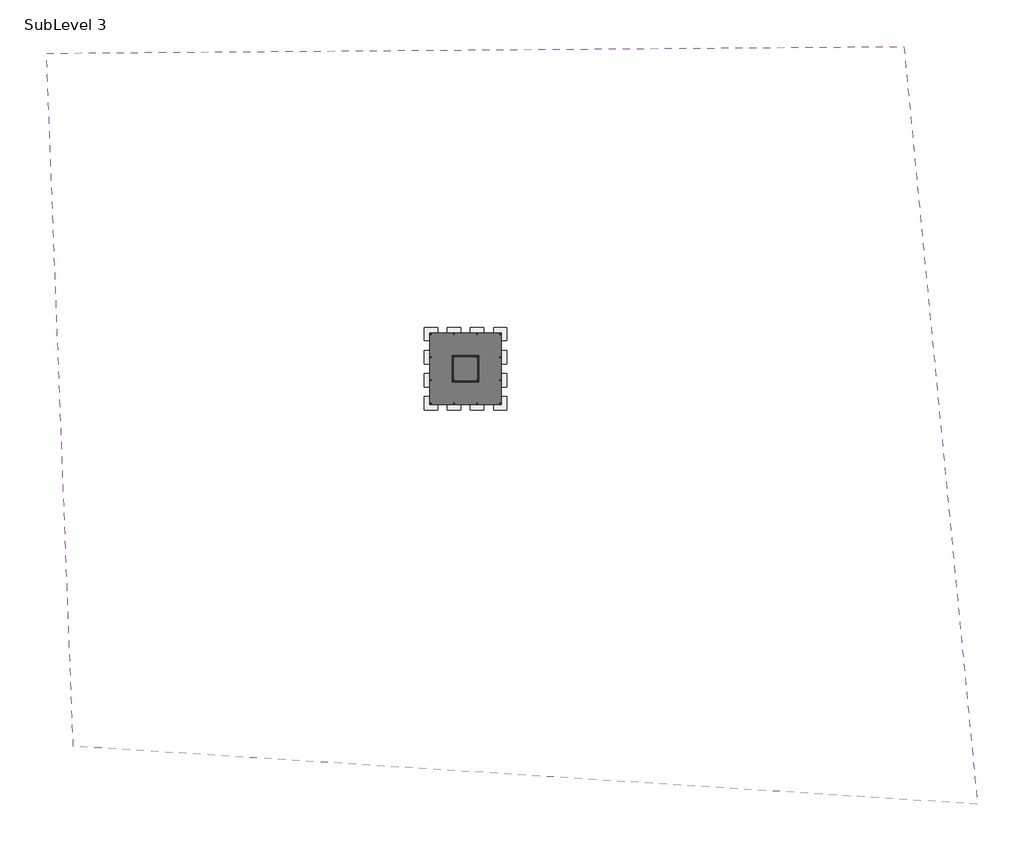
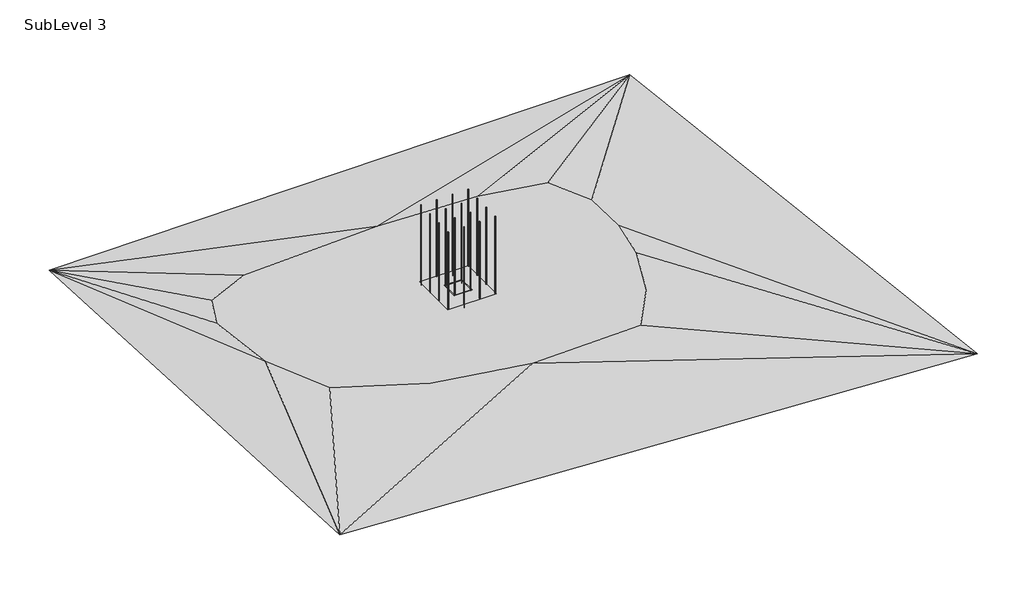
# One storey, incomplete: 23 columns, 17 slabs, 8 walls, 4 footings, 2 proxies.
"""IFC4 building model written with IfcOpenShell, lengths in millimetres."""

from ifc_helpers import new_model, si_unit, point, frame, frame_2d, origin, place, context, project, spatial, polyline, circle_curve, trimmed, segment, composite_curve, outline, extrude, faceted_brep, triangles, transform, mapped, element, save
from components import w_shapes_column_w10x49_1ba87946, slab_50b121dc

model = new_model("IFC4")

# Units and contexts
model_context = context("Model", 3, world=origin())
ifc_project = project(units=[si_unit("LENGTHUNIT", "METRE", prefix="MILLI")], contexts=[model_context])

# Site, building, storey
site = spatial("IfcSite", under=ifc_project)
building = spatial("IfcBuilding", under=site)
storey = spatial("IfcBuildingStorey", under=building, Name="SubLevel 3", Elevation=-13716.0)

# Proxies
placement = place(None, origin())
element("IfcBuildingElementProxy", 1, Name="Building Element Proxy", at=placement, inside=storey, context=model_context, shape_type="Tessellation", body=[
    triangles([(-147237.9615967, 107808.442749, -6096.0), (-138070.1583984, -129790.4591309, -6096.0), (171725.2018066, -149654.0373779, -6096.0), (146513.7360352, 110100.3865723, -6096.0), (-15866.202475, -12561.3704773, 0.0), (-15866.202475, 11822.6295227, 0.0), (-8566.152713, 11822.6295227, 0.0), (8517.797525, 11822.6295227, 0.0), (8517.797525, -12561.3704773, 0.0), (-7216.8403061, -12561.3704773, 0.0), (-79971.4628174, 54487.0602173, 0.0), (-11117.5353516, 57929.7570557, 0.0), (38555.6582336, 55470.6885498, 0.0), (70031.7392944, 49077.1067139, 0.0), (80359.8298096, 28420.928009, 0.0), (80851.6416504, 5797.4938019, 0.0), (76917.1329712, -16334.1274017, 0.0), (66589.0424561, -42892.0702881, 0.0), (50851.0030884, -65023.6914917, 0.0), (-4232.1419655, -66499.131665, 0.0), (-50462.6407471, -57154.6741333, 0.0), (-90299.5579834, -38465.7474426, 0.0), (-104562.1571777, -6989.6646378, 0.0), (-108496.6705078, 28912.7421753, 0.0), (-101611.2768311, 45142.5980347, 0.0)], [[2, 22, 23], [22, 2, 21], [23, 22, 5], [2, 23, 1], [23, 5, 6], [5, 21, 20], [5, 22, 21], [2, 20, 21], [1, 24, 25], [24, 1, 23], [25, 24, 11], [1, 25, 11], [11, 6, 12], [11, 24, 23], [12, 6, 7], [11, 12, 1], [23, 6, 11], [1, 12, 4], [7, 8, 12], [20, 19, 9], [19, 20, 3], [9, 19, 18], [20, 9, 10], [18, 3, 17], [3, 18, 19], [17, 3, 16], [18, 17, 9], [20, 2, 3], [9, 17, 8], [8, 15, 13], [8, 13, 12], [15, 16, 4], [15, 14, 13], [14, 4, 13], [4, 14, 15], [16, 3, 4], [15, 8, 16], [17, 16, 8], [13, 4, 12], [20, 10, 5]], closed=False),
])
element("IfcBuildingElementProxy", 2, Name="Mass 6 : Mass 6", ObjectType="Mass 6 : Mass 6", at=placement, inside=storey, context=model_context, shape_type="SweptSolid", body=[
    extrude(outline(polyline([(8517.7973043, 11822.6291012), (8517.7973043, -12561.3708988), (-15866.2026957, -12561.3708988), (-15866.2026957, 11822.6291012), (8517.7973043, 11822.6291012)])), frame((0.0, 0.0, -13716.0), z_axis=(0.0, 0.0, 1.0), x_axis=(1.0, 0.0, 0.0)), (0.0, 0.0, 1.0), 13716.0),
])

# Columns
element("IfcColumn", 3, ObjectType="W Shapes-Column : W10X49", at=placement, inside=storey, context=model_context, shape_type="SweptSolid", body=[
    extrude(outline(composite_curve([segment(polyline([(-15688.4026957, -12383.5708988), (-15688.4026957, -12369.3468988), (-15578.4206957, -12369.3468988)]), True, "CONTINUOUS"), segment(trimmed(circle_curve(frame_2d((-15578.4206957, -12356.6468988)), 12.7), [point((-15578.4206957, -12369.3468988))], [point((-15565.7206957, -12356.6468988))], True, "CARTESIAN"), True, "CONTINUOUS"), segment(polyline([(-15565.7206957, -12356.6468988), (-15565.7206957, -12156.4948988)]), True, "CONTINUOUS"), segment(trimmed(circle_curve(frame_2d((-15578.4206957, -12156.4948988)), 12.7), [point((-15565.7206957, -12156.4948988))], [point((-15578.4206957, -12143.7948988))], True, "CARTESIAN"), True, "CONTINUOUS"), segment(polyline([(-15578.4206957, -12143.7948988), (-15688.4026957, -12143.7948988), (-15688.4026957, -12129.5708988), (-15434.4026957, -12129.5708988), (-15434.4026957, -12143.7948988), (-15544.3846957, -12143.7948988)]), True, "CONTINUOUS"), segment(trimmed(circle_curve(frame_2d((-15544.3846957, -12156.4948988)), 12.7), [point((-15544.3846957, -12143.7948988))], [point((-15557.0846957, -12156.4948988))], True, "CARTESIAN"), True, "CONTINUOUS"), segment(polyline([(-15557.0846957, -12156.4948988), (-15557.0846957, -12356.6468988)]), True, "CONTINUOUS"), segment(trimmed(circle_curve(frame_2d((-15544.3846957, -12356.6468988)), 12.7), [point((-15557.0846957, -12356.6468988))], [point((-15544.3846957, -12369.3468988))], True, "CARTESIAN"), True, "CONTINUOUS"), segment(polyline([(-15544.3846957, -12369.3468988), (-15434.4026957, -12369.3468988), (-15434.4026957, -12383.5708988), (-15688.4026957, -12383.5708988)]), True, "CONTINUOUS")], self_intersect=False)), frame((0.0, 0.0, -15240.0), z_axis=(0.0, 0.0, 1.0), x_axis=(1.0, 0.0, 0.0)), (0.0, 0.0, 1.0), 56235.6),
])
element("IfcColumn", 4, ObjectType="W Shapes-Column : W10X49", at=placement, inside=storey, context=model_context, shape_type="SweptSolid", body=[
    extrude(outline(composite_curve([segment(polyline([(-15688.4026957, 11390.8291012), (-15688.4026957, 11405.0531012), (-15578.4206957, 11405.0531012)]), True, "CONTINUOUS"), segment(trimmed(circle_curve(frame_2d((-15578.4206957, 11417.7531012)), 12.7), [point((-15578.4206957, 11405.0531012))], [point((-15565.7206957, 11417.7531012))], True, "CARTESIAN"), True, "CONTINUOUS"), segment(polyline([(-15565.7206957, 11417.7531012), (-15565.7206957, 11617.9051012)]), True, "CONTINUOUS"), segment(trimmed(circle_curve(frame_2d((-15578.4206957, 11617.9051012)), 12.7), [point((-15565.7206957, 11617.9051012))], [point((-15578.4206957, 11630.6051012))], True, "CARTESIAN"), True, "CONTINUOUS"), segment(polyline([(-15578.4206957, 11630.6051012), (-15688.4026957, 11630.6051012), (-15688.4026957, 11644.8291012), (-15434.4026957, 11644.8291012), (-15434.4026957, 11630.6051012), (-15544.3846957, 11630.6051012)]), True, "CONTINUOUS"), segment(trimmed(circle_curve(frame_2d((-15544.3846957, 11617.9051012)), 12.7), [point((-15544.3846957, 11630.6051012))], [point((-15557.0846957, 11617.9051012))], True, "CARTESIAN"), True, "CONTINUOUS"), segment(polyline([(-15557.0846957, 11617.9051012), (-15557.0846957, 11417.7531012)]), True, "CONTINUOUS"), segment(trimmed(circle_curve(frame_2d((-15544.3846957, 11417.7531012)), 12.7), [point((-15557.0846957, 11417.7531012))], [point((-15544.3846957, 11405.0531012))], True, "CARTESIAN"), True, "CONTINUOUS"), segment(polyline([(-15544.3846957, 11405.0531012), (-15434.4026957, 11405.0531012), (-15434.4026957, 11390.8291012), (-15688.4026957, 11390.8291012)]), True, "CONTINUOUS")], self_intersect=False)), frame((0.0, 0.0, -15240.0), z_axis=(0.0, 0.0, 1.0), x_axis=(1.0, 0.0, 0.0)), (0.0, 0.0, 1.0), 56235.6),
])
element("IfcColumn", 5, ObjectType="W Shapes-Column : W10X49", at=placement, inside=storey, context=model_context, shape_type="SweptSolid", body=[
    extrude(outline(composite_curve([segment(polyline([(-15688.4026957, -4458.7708988), (-15688.4026957, -4444.5468988), (-15578.4206957, -4444.5468988)]), True, "CONTINUOUS"), segment(trimmed(circle_curve(frame_2d((-15578.4206957, -4431.8468988)), 12.7), [point((-15578.4206957, -4444.5468988))], [point((-15565.7206957, -4431.8468988))], True, "CARTESIAN"), True, "CONTINUOUS"), segment(polyline([(-15565.7206957, -4431.8468988), (-15565.7206957, -4231.6948988)]), True, "CONTINUOUS"), segment(trimmed(circle_curve(frame_2d((-15578.4206957, -4231.6948988)), 12.7), [point((-15565.7206957, -4231.6948988))], [point((-15578.4206957, -4218.9948988))], True, "CARTESIAN"), True, "CONTINUOUS"), segment(polyline([(-15578.4206957, -4218.9948988), (-15688.4026957, -4218.9948988), (-15688.4026957, -4204.7708988), (-15434.4026957, -4204.7708988), (-15434.4026957, -4218.9948988), (-15544.3846957, -4218.9948988)]), True, "CONTINUOUS"), segment(trimmed(circle_curve(frame_2d((-15544.3846957, -4231.6948988)), 12.7), [point((-15544.3846957, -4218.9948988))], [point((-15557.0846957, -4231.6948988))], True, "CARTESIAN"), True, "CONTINUOUS"), segment(polyline([(-15557.0846957, -4231.6948988), (-15557.0846957, -4431.8468988)]), True, "CONTINUOUS"), segment(trimmed(circle_curve(frame_2d((-15544.3846957, -4431.8468988)), 12.7), [point((-15557.0846957, -4431.8468988))], [point((-15544.3846957, -4444.5468988))], True, "CARTESIAN"), True, "CONTINUOUS"), segment(polyline([(-15544.3846957, -4444.5468988), (-15434.4026957, -4444.5468988), (-15434.4026957, -4458.7708988), (-15688.4026957, -4458.7708988)]), True, "CONTINUOUS")], self_intersect=False)), frame((0.0, 0.0, -15240.0), z_axis=(0.0, 0.0, 1.0), x_axis=(1.0, 0.0, 0.0)), (0.0, 0.0, 1.0), 56235.6),
])
element("IfcColumn", 6, ObjectType="W Shapes-Column : W10X49", at=placement, inside=storey, context=model_context, shape_type="SweptSolid", body=[
    extrude(outline(composite_curve([segment(polyline([(-15688.4026957, 3466.0291012), (-15688.4026957, 3480.2531012), (-15578.4206957, 3480.2531012)]), True, "CONTINUOUS"), segment(trimmed(circle_curve(frame_2d((-15578.4206957, 3492.9531012)), 12.7), [point((-15578.4206957, 3480.2531012))], [point((-15565.7206957, 3492.9531012))], True, "CARTESIAN"), True, "CONTINUOUS"), segment(polyline([(-15565.7206957, 3492.9531012), (-15565.7206957, 3693.1051012)]), True, "CONTINUOUS"), segment(trimmed(circle_curve(frame_2d((-15578.4206957, 3693.1051012)), 12.7), [point((-15565.7206957, 3693.1051012))], [point((-15578.4206957, 3705.8051012))], True, "CARTESIAN"), True, "CONTINUOUS"), segment(polyline([(-15578.4206957, 3705.8051012), (-15688.4026957, 3705.8051012), (-15688.4026957, 3720.0291012), (-15434.4026957, 3720.0291012), (-15434.4026957, 3705.8051012), (-15544.3846957, 3705.8051012)]), True, "CONTINUOUS"), segment(trimmed(circle_curve(frame_2d((-15544.3846957, 3693.1051012)), 12.7), [point((-15544.3846957, 3705.8051012))], [point((-15557.0846957, 3693.1051012))], True, "CARTESIAN"), True, "CONTINUOUS"), segment(polyline([(-15557.0846957, 3693.1051012), (-15557.0846957, 3492.9531012)]), True, "CONTINUOUS"), segment(trimmed(circle_curve(frame_2d((-15544.3846957, 3492.9531012)), 12.7), [point((-15557.0846957, 3492.9531012))], [point((-15544.3846957, 3480.2531012))], True, "CARTESIAN"), True, "CONTINUOUS"), segment(polyline([(-15544.3846957, 3480.2531012), (-15434.4026957, 3480.2531012), (-15434.4026957, 3466.0291012), (-15688.4026957, 3466.0291012)]), True, "CONTINUOUS")], self_intersect=False)), frame((0.0, 0.0, -15240.0), z_axis=(0.0, 0.0, 1.0), x_axis=(1.0, 0.0, 0.0)), (0.0, 0.0, 1.0), 56235.6),
])
element("IfcColumn", 7, ObjectType="W Shapes-Column : W10X49", at=placement, inside=storey, context=model_context, shape_type="SweptSolid", body=[
    extrude(outline(composite_curve([segment(polyline([(-7763.6026957, 11390.8291012), (-7763.6026957, 11405.0531012), (-7653.6206957, 11405.0531012)]), True, "CONTINUOUS"), segment(trimmed(circle_curve(frame_2d((-7653.6206957, 11417.7531012)), 12.7), [point((-7653.6206957, 11405.0531012))], [point((-7640.9206957, 11417.7531012))], True, "CARTESIAN"), True, "CONTINUOUS"), segment(polyline([(-7640.9206957, 11417.7531012), (-7640.9206957, 11617.9051012)]), True, "CONTINUOUS"), segment(trimmed(circle_curve(frame_2d((-7653.6206957, 11617.9051012)), 12.7), [point((-7640.9206957, 11617.9051012))], [point((-7653.6206957, 11630.6051012))], True, "CARTESIAN"), True, "CONTINUOUS"), segment(polyline([(-7653.6206957, 11630.6051012), (-7763.6026957, 11630.6051012), (-7763.6026957, 11644.8291012), (-7509.6026957, 11644.8291012), (-7509.6026957, 11630.6051012), (-7619.5846957, 11630.6051012)]), True, "CONTINUOUS"), segment(trimmed(circle_curve(frame_2d((-7619.5846957, 11617.9051012)), 12.7), [point((-7619.5846957, 11630.6051012))], [point((-7632.2846957, 11617.9051012))], True, "CARTESIAN"), True, "CONTINUOUS"), segment(polyline([(-7632.2846957, 11617.9051012), (-7632.2846957, 11417.7531012)]), True, "CONTINUOUS"), segment(trimmed(circle_curve(frame_2d((-7619.5846957, 11417.7531012)), 12.7), [point((-7632.2846957, 11417.7531012))], [point((-7619.5846957, 11405.0531012))], True, "CARTESIAN"), True, "CONTINUOUS"), segment(polyline([(-7619.5846957, 11405.0531012), (-7509.6026957, 11405.0531012), (-7509.6026957, 11390.8291012), (-7763.6026957, 11390.8291012)]), True, "CONTINUOUS")], self_intersect=False)), frame((0.0, 0.0, -15240.0), z_axis=(0.0, 0.0, 1.0), x_axis=(1.0, 0.0, 0.0)), (0.0, 0.0, 1.0), 56235.6),
])
element("IfcColumn", 8, ObjectType="W Shapes-Column : W10X49", at=placement, inside=storey, context=model_context, shape_type="SweptSolid", body=[
    extrude(outline(composite_curve([segment(polyline([(161.1973043, 11390.8291012), (161.1973043, 11405.0531012), (271.1793043, 11405.0531012)]), True, "CONTINUOUS"), segment(trimmed(circle_curve(frame_2d((271.1793043, 11417.7531012)), 12.7), [point((271.1793043, 11405.0531012))], [point((283.8793043, 11417.7531012))], True, "CARTESIAN"), True, "CONTINUOUS"), segment(polyline([(283.8793043, 11417.7531012), (283.8793043, 11617.9051012)]), True, "CONTINUOUS"), segment(trimmed(circle_curve(frame_2d((271.1793043, 11617.9051012)), 12.7), [point((283.8793043, 11617.9051012))], [point((271.1793043, 11630.6051012))], True, "CARTESIAN"), True, "CONTINUOUS"), segment(polyline([(271.1793043, 11630.6051012), (161.1973043, 11630.6051012), (161.1973043, 11644.8291012), (415.1973043, 11644.8291012), (415.1973043, 11630.6051012), (305.2153043, 11630.6051012)]), True, "CONTINUOUS"), segment(trimmed(circle_curve(frame_2d((305.2153043, 11617.9051012)), 12.7), [point((305.2153043, 11630.6051012))], [point((292.5153043, 11617.9051012))], True, "CARTESIAN"), True, "CONTINUOUS"), segment(polyline([(292.5153043, 11617.9051012), (292.5153043, 11417.7531012)]), True, "CONTINUOUS"), segment(trimmed(circle_curve(frame_2d((305.2153043, 11417.7531012)), 12.7), [point((292.5153043, 11417.7531012))], [point((305.2153043, 11405.0531012))], True, "CARTESIAN"), True, "CONTINUOUS"), segment(polyline([(305.2153043, 11405.0531012), (415.1973043, 11405.0531012), (415.1973043, 11390.8291012), (161.1973043, 11390.8291012)]), True, "CONTINUOUS")], self_intersect=False)), frame((0.0, 0.0, -15240.0), z_axis=(0.0, 0.0, 1.0), x_axis=(1.0, 0.0, 0.0)), (0.0, 0.0, 1.0), 56235.6),
])
element("IfcColumn", 9, ObjectType="W Shapes-Column : W10X49", at=placement, inside=storey, context=model_context, shape_type="SweptSolid", body=[
    extrude(outline(composite_curve([segment(polyline([(8085.9973043, 11390.8291012), (8085.9973043, 11405.0531012), (8195.9793043, 11405.0531012)]), True, "CONTINUOUS"), segment(trimmed(circle_curve(frame_2d((8195.9793043, 11417.7531012)), 12.7), [point((8195.9793043, 11405.0531012))], [point((8208.6793043, 11417.7531012))], True, "CARTESIAN"), True, "CONTINUOUS"), segment(polyline([(8208.6793043, 11417.7531012), (8208.6793043, 11617.9051012)]), True, "CONTINUOUS"), segment(trimmed(circle_curve(frame_2d((8195.9793043, 11617.9051012)), 12.7), [point((8208.6793043, 11617.9051012))], [point((8195.9793043, 11630.6051012))], True, "CARTESIAN"), True, "CONTINUOUS"), segment(polyline([(8195.9793043, 11630.6051012), (8085.9973043, 11630.6051012), (8085.9973043, 11644.8291012), (8339.9973043, 11644.8291012), (8339.9973043, 11630.6051012), (8230.0153043, 11630.6051012)]), True, "CONTINUOUS"), segment(trimmed(circle_curve(frame_2d((8230.0153043, 11617.9051012)), 12.7), [point((8230.0153043, 11630.6051012))], [point((8217.3153043, 11617.9051012))], True, "CARTESIAN"), True, "CONTINUOUS"), segment(polyline([(8217.3153043, 11617.9051012), (8217.3153043, 11417.7531012)]), True, "CONTINUOUS"), segment(trimmed(circle_curve(frame_2d((8230.0153043, 11417.7531012)), 12.7), [point((8217.3153043, 11417.7531012))], [point((8230.0153043, 11405.0531012))], True, "CARTESIAN"), True, "CONTINUOUS"), segment(polyline([(8230.0153043, 11405.0531012), (8339.9973043, 11405.0531012), (8339.9973043, 11390.8291012), (8085.9973043, 11390.8291012)]), True, "CONTINUOUS")], self_intersect=False)), frame((0.0, 0.0, -15240.0), z_axis=(0.0, 0.0, 1.0), x_axis=(1.0, 0.0, 0.0)), (0.0, 0.0, 1.0), 56235.6),
])
w_shapes_column_w10x49_shape = w_shapes_column_w10x49_1ba87946(model_context)
element("IfcColumn", 10, ObjectType="W Shapes-Column : W10X49", at=placement, inside=storey, context=model_context, shape_type="MappedRepresentation", body=[
    mapped(w_shapes_column_w10x49_shape, transform((-7636.6026957, -12256.5708988, 0.0), x_axis=(-1.0, 0.0, 0.0), y_axis=(0.0, -1.0, 0.0), z_axis=(0.0, 0.0, 1.0))),
])
element("IfcColumn", 11, ObjectType="W Shapes-Column : W10X49", at=placement, inside=storey, context=model_context, shape_type="MappedRepresentation", body=[
    mapped(w_shapes_column_w10x49_shape, transform((-7636.6026957, -4331.7708988, 0.0), x_axis=(-1.0, 0.0, 0.0), y_axis=(0.0, -1.0, 0.0), z_axis=(0.0, 0.0, 1.0))),
])
element("IfcColumn", 12, ObjectType="W Shapes-Column : W10X49", at=placement, inside=storey, context=model_context, shape_type="MappedRepresentation", body=[
    mapped(w_shapes_column_w10x49_shape, transform((-7636.6026957, 3593.0291012, 0.0), x_axis=(-1.0, 0.0, 0.0), y_axis=(0.0, -1.0, 0.0), z_axis=(0.0, 0.0, 1.0))),
])
element("IfcColumn", 13, ObjectType="W Shapes-Column : W10X49", at=placement, inside=storey, context=model_context, shape_type="MappedRepresentation", body=[
    mapped(w_shapes_column_w10x49_shape, transform((288.1973043, -12256.5708988, 0.0), x_axis=(-1.0, 0.0, 0.0), y_axis=(0.0, -1.0, 0.0), z_axis=(0.0, 0.0, 1.0))),
])
element("IfcColumn", 14, ObjectType="W Shapes-Column : W10X49", at=placement, inside=storey, context=model_context, shape_type="MappedRepresentation", body=[
    mapped(w_shapes_column_w10x49_shape, transform((288.1973043, -4331.7708988, 0.0), x_axis=(-1.0, 0.0, 0.0), y_axis=(0.0, -1.0, 0.0), z_axis=(0.0, 0.0, 1.0))),
])
element("IfcColumn", 15, ObjectType="W Shapes-Column : W10X49", at=placement, inside=storey, context=model_context, shape_type="MappedRepresentation", body=[
    mapped(w_shapes_column_w10x49_shape, transform((288.1973043, 3593.0291012, 0.0), x_axis=(-1.0, 0.0, 0.0), y_axis=(0.0, -1.0, 0.0), z_axis=(0.0, 0.0, 1.0))),
])
element("IfcColumn", 16, ObjectType="W Shapes-Column : W10X49", at=placement, inside=storey, context=model_context, shape_type="MappedRepresentation", body=[
    mapped(w_shapes_column_w10x49_shape, transform((8212.9973043, -12256.5708988, 0.0), x_axis=(-1.0, 0.0, 0.0), y_axis=(0.0, -1.0, 0.0), z_axis=(0.0, 0.0, 1.0))),
])
element("IfcColumn", 17, ObjectType="W Shapes-Column : W10X49", at=placement, inside=storey, context=model_context, shape_type="MappedRepresentation", body=[
    mapped(w_shapes_column_w10x49_shape, transform((8212.9973043, -4331.7708988, 0.0), x_axis=(-1.0, 0.0, 0.0), y_axis=(0.0, -1.0, 0.0), z_axis=(0.0, 0.0, 1.0))),
])
element("IfcColumn", 18, ObjectType="W Shapes-Column : W10X49", at=placement, inside=storey, context=model_context, shape_type="MappedRepresentation", body=[
    mapped(w_shapes_column_w10x49_shape, transform((8212.9973043, 3593.0291012, 0.0), x_axis=(-1.0, 0.0, 0.0), y_axis=(0.0, -1.0, 0.0), z_axis=(0.0, 0.0, 1.0))),
])
element("IfcColumn", 19, ObjectType="W Shapes-Column : W10X49", at=placement, inside=storey, context=model_context, shape_type="MappedRepresentation", body=[
    mapped(w_shapes_column_w10x49_shape, transform((-15561.4026957, 11517.8291012, 0.0), x_axis=(1.0, 0.0, 0.0), y_axis=(0.0, 1.0, 0.0), z_axis=(0.0, 0.0, 1.0))),
])
element("IfcColumn", 20, ObjectType="W Shapes-Column : W10X49", at=placement, inside=storey, context=model_context, shape_type="MappedRepresentation", body=[
    mapped(w_shapes_column_w10x49_shape, transform((-7636.6026957, 11517.8291012, 0.0), x_axis=(1.0, 0.0, 0.0), y_axis=(0.0, 1.0, 0.0), z_axis=(0.0, 0.0, 1.0))),
])
element("IfcColumn", 21, ObjectType="W Shapes-Column : W10X49", at=placement, inside=storey, context=model_context, shape_type="MappedRepresentation", body=[
    mapped(w_shapes_column_w10x49_shape, transform((288.1973043, 11517.8291012, 0.0), x_axis=(1.0, 0.0, 0.0), y_axis=(0.0, 1.0, 0.0), z_axis=(0.0, 0.0, 1.0))),
])
element("IfcColumn", 22, ObjectType="W Shapes-Column : W10X49", at=placement, inside=storey, context=model_context, shape_type="MappedRepresentation", body=[
    mapped(w_shapes_column_w10x49_shape, transform((8212.9973043, 11517.8291012, 0.0), x_axis=(1.0, 0.0, 0.0), y_axis=(0.0, 1.0, 0.0), z_axis=(0.0, 0.0, 1.0))),
])
element("IfcColumn", 23, ObjectType="W Shapes-Column : W10X49", at=placement, inside=storey, context=model_context, shape_type="MappedRepresentation", body=[
    mapped(w_shapes_column_w10x49_shape, transform((-15561.4026957, 3593.0291012, 0.0), x_axis=(1.0, 0.0, 0.0), y_axis=(0.0, 1.0, 0.0), z_axis=(0.0, 0.0, 1.0))),
])
element("IfcColumn", 24, ObjectType="W Shapes-Column : W10X49", at=placement, inside=storey, context=model_context, shape_type="MappedRepresentation", body=[
    mapped(w_shapes_column_w10x49_shape, transform((-15561.4026957, -4331.7708988, 0.0), x_axis=(1.0, 0.0, 0.0), y_axis=(0.0, 1.0, 0.0), z_axis=(0.0, 0.0, 1.0))),
])
element("IfcColumn", 25, ObjectType="W Shapes-Column : W10X49", at=placement, inside=storey, context=model_context, shape_type="MappedRepresentation", body=[
    mapped(w_shapes_column_w10x49_shape, transform((-15561.4026957, -12256.5708988, 0.0), x_axis=(1.0, 0.0, 0.0), y_axis=(0.0, 1.0, 0.0), z_axis=(0.0, 0.0, 1.0))),
])

# Footings
element("IfcFooting", 26, ObjectType="Bearing Footing - 60\" x 36\"", at=placement, inside=storey, context=model_context, shape_type="SweptSolid", body=[
    extrude(outline(polyline([(-5350.6026957, 3186.6291012), (-5350.6026957, 4710.6291012), (-1997.8026957, 4710.6291012), (-1997.8026957, 3186.6291012), (-5350.6026957, 3186.6291012)])), frame((0.0, 0.0, -16154.4), z_axis=(0.0, 0.0, 1.0), x_axis=(1.0, 0.0, 0.0)), (0.0, 0.0, 1.0), 914.4),
])
element("IfcFooting", 27, ObjectType="Bearing Footing - 60\" x 36\"", at=placement, inside=storey, context=model_context, shape_type="SweptSolid", body=[
    extrude(outline(polyline([(1405.7973043, -2045.7708988), (-118.2026957, -2045.7708988), (-118.2026957, 1307.0291012), (1405.7973043, 1307.0291012), (1405.7973043, -2045.7708988)])), frame((0.0, 0.0, -16154.4), z_axis=(0.0, 0.0, 1.0), x_axis=(1.0, 0.0, 0.0)), (0.0, 0.0, 1.0), 914.4),
])
element("IfcFooting", 28, ObjectType="Bearing Footing - 60\" x 36\"", at=placement, inside=storey, context=model_context, shape_type="SweptSolid", body=[
    extrude(outline(polyline([(-1997.8026957, -3925.3708988), (-1997.8026957, -5449.3708988), (-5350.6026957, -5449.3708988), (-5350.6026957, -3925.3708988), (-1997.8026957, -3925.3708988)])), frame((0.0, 0.0, -16154.4), z_axis=(0.0, 0.0, 1.0), x_axis=(1.0, 0.0, 0.0)), (0.0, 0.0, 1.0), 914.4),
])
element("IfcFooting", 29, ObjectType="Bearing Footing - 60\" x 36\"", at=placement, inside=storey, context=model_context, shape_type="SweptSolid", body=[
    extrude(outline(polyline([(-7230.2026957, -2045.7708988), (-8754.2026957, -2045.7708988), (-8754.2026957, 1307.0291012), (-7230.2026957, 1307.0291012), (-7230.2026957, -2045.7708988)])), frame((0.0, 0.0, -16154.4), z_axis=(0.0, 0.0, 1.0), x_axis=(1.0, 0.0, 0.0)), (0.0, 0.0, 1.0), 914.4),
])

# Slabs
element("IfcSlab", 30, ObjectType="Footing-Rectangular : 180\" x180\" x 36\"", at=placement, inside=storey, context=model_context, shape_type="Brep", body=[
    faceted_brep([(2574.1973043, -2045.7708988, -15240.0), (1405.7973043, -2045.7708988, -15240.0), (-118.2026957, -2045.7708988, -15240.0), (-1997.8026957, -2045.7708988, -15240.0), (-1997.8026957, -3925.3708988, -15240.0), (-1997.8026957, -5449.3708988, -15240.0), (-1997.8026957, -6617.7708988, -15240.0), (2574.1973043, -6617.7708988, -15240.0), (2574.1973043, -2045.7708988, -16154.4), (2574.1973043, -6617.7708988, -16154.4), (-1997.8026957, -6617.7708988, -16154.4), (-1997.8026957, -5449.3708988, -16154.4), (-1997.8026957, -3925.3708988, -16154.4), (-1997.8026957, -2045.7708988, -16154.4), (-118.2026957, -2045.7708988, -16154.4), (1405.7973043, -2045.7708988, -16154.4)], [[[0, 1, 2, 3, 4, 5, 6, 7]], [[8, 9, 10, 11, 12, 13, 14, 15]], [[3, 2, 1, 0, 8, 15, 14, 13]], [[6, 5, 4, 3, 13, 12, 11, 10]], [[7, 6, 10, 9]], [[0, 7, 9, 8]]]),
])
element("IfcSlab", 31, ObjectType="Footing-Rectangular : 180\" x180\" x 36\"", at=placement, inside=storey, context=model_context, shape_type="Brep", body=[
    faceted_brep([(-5350.6026957, -2045.7708988, -15240.0), (-7230.2026957, -2045.7708988, -15240.0), (-8754.2026957, -2045.7708988, -15240.0), (-9922.6026957, -2045.7708988, -15240.0), (-9922.6026957, -6617.7708988, -15240.0), (-5350.6026957, -6617.7708988, -15240.0), (-5350.6026957, -5449.3708988, -15240.0), (-5350.6026957, -3925.3708988, -15240.0), (-5350.6026957, -2045.7708988, -16154.4), (-5350.6026957, -3925.3708988, -16154.4), (-5350.6026957, -5449.3708988, -16154.4), (-5350.6026957, -6617.7708988, -16154.4), (-9922.6026957, -6617.7708988, -16154.4), (-9922.6026957, -2045.7708988, -16154.4), (-8754.2026957, -2045.7708988, -16154.4), (-7230.2026957, -2045.7708988, -16154.4)], [[[0, 1, 2, 3, 4, 5, 6, 7]], [[8, 9, 10, 11, 12, 13, 14, 15]], [[3, 2, 1, 0, 8, 15, 14, 13]], [[4, 3, 13, 12]], [[5, 4, 12, 11]], [[0, 7, 6, 5, 11, 10, 9, 8]]]),
])
element("IfcSlab", 32, ObjectType="Footing-Rectangular : 180\" x180\" x 36\"", at=placement, inside=storey, context=model_context, shape_type="Brep", body=[
    faceted_brep([(-5350.6026957, 5879.0291012, -15240.0), (-9922.6026957, 5879.0291012, -15240.0), (-9922.6026957, 1307.0291012, -15240.0), (-8754.2026957, 1307.0291012, -15240.0), (-7230.2026957, 1307.0291012, -15240.0), (-5350.6026957, 1307.0291012, -15240.0), (-5350.6026957, 3186.6291012, -15240.0), (-5350.6026957, 4710.6291012, -15240.0), (-5350.6026957, 5879.0291012, -16154.4), (-5350.6026957, 4710.6291012, -16154.4), (-5350.6026957, 3186.6291012, -16154.4), (-5350.6026957, 1307.0291012, -16154.4), (-7230.2026957, 1307.0291012, -16154.4), (-8754.2026957, 1307.0291012, -16154.4), (-9922.6026957, 1307.0291012, -16154.4), (-9922.6026957, 5879.0291012, -16154.4)], [[[0, 1, 2, 3, 4, 5, 6, 7]], [[8, 9, 10, 11, 12, 13, 14, 15]], [[1, 0, 8, 15]], [[2, 1, 15, 14]], [[5, 4, 3, 2, 14, 13, 12, 11]], [[0, 7, 6, 5, 11, 10, 9, 8]]]),
])
element("IfcSlab", 33, ObjectType="Footing-Rectangular : 180\" x180\" x 36\"", at=placement, inside=storey, context=model_context, shape_type="Brep", body=[
    faceted_brep([(2574.1973043, 5879.0291012, -15240.0), (-1997.8026957, 5879.0291012, -15240.0), (-1997.8026957, 4710.6291012, -15240.0), (-1997.8026957, 3186.6291012, -15240.0), (-1997.8026957, 1307.0291012, -15240.0), (-118.2026957, 1307.0291012, -15240.0), (1405.7973043, 1307.0291012, -15240.0), (2574.1973043, 1307.0291012, -15240.0), (2574.1973043, 5879.0291012, -16154.4), (2574.1973043, 1307.0291012, -16154.4), (1405.7973043, 1307.0291012, -16154.4), (-118.2026957, 1307.0291012, -16154.4), (-1997.8026957, 1307.0291012, -16154.4), (-1997.8026957, 3186.6291012, -16154.4), (-1997.8026957, 4710.6291012, -16154.4), (-1997.8026957, 5879.0291012, -16154.4)], [[[0, 1, 2, 3, 4, 5, 6, 7]], [[8, 9, 10, 11, 12, 13, 14, 15]], [[1, 0, 8, 15]], [[4, 3, 2, 1, 15, 14, 13, 12]], [[7, 6, 5, 4, 12, 11, 10, 9]], [[0, 7, 9, 8]]]),
])
slab_shape = slab_50b121dc(model_context)
element("IfcSlab", 34, ObjectType="Footing-Rectangular : 180\" x180\" x 36\"", at=placement, inside=storey, context=model_context, shape_type="MappedRepresentation", body=[
    mapped(slab_shape, transform((-15561.4026957, -12256.5708988, -15240.0), x_axis=(1.0, 0.0, 0.0), y_axis=(0.0, 1.0, 0.0), z_axis=(0.0, 0.0, 1.0))),
])
element("IfcSlab", 35, ObjectType="Footing-Rectangular : 180\" x180\" x 36\"", at=placement, inside=storey, context=model_context, shape_type="MappedRepresentation", body=[
    mapped(slab_shape, transform((-7636.6026957, -12256.5708988, -15240.0), x_axis=(1.0, 0.0, 0.0), y_axis=(0.0, 1.0, 0.0), z_axis=(0.0, 0.0, 1.0))),
])
element("IfcSlab", 36, ObjectType="Footing-Rectangular : 180\" x180\" x 36\"", at=placement, inside=storey, context=model_context, shape_type="MappedRepresentation", body=[
    mapped(slab_shape, transform((288.1973043, -12256.5708988, -15240.0), x_axis=(1.0, 0.0, 0.0), y_axis=(0.0, 1.0, 0.0), z_axis=(0.0, 0.0, 1.0))),
])
element("IfcSlab", 37, ObjectType="Footing-Rectangular : 180\" x180\" x 36\"", at=placement, inside=storey, context=model_context, shape_type="MappedRepresentation", body=[
    mapped(slab_shape, transform((8212.9973043, -12256.5708988, -15240.0), x_axis=(1.0, 0.0, 0.0), y_axis=(0.0, 1.0, 0.0), z_axis=(0.0, 0.0, 1.0))),
])
element("IfcSlab", 38, ObjectType="Footing-Rectangular : 180\" x180\" x 36\"", at=placement, inside=storey, context=model_context, shape_type="MappedRepresentation", body=[
    mapped(slab_shape, transform((8212.9973043, -4331.7708988, -15240.0), x_axis=(1.0, 0.0, 0.0), y_axis=(0.0, 1.0, 0.0), z_axis=(0.0, 0.0, 1.0))),
])
element("IfcSlab", 39, ObjectType="Footing-Rectangular : 180\" x180\" x 36\"", at=placement, inside=storey, context=model_context, shape_type="MappedRepresentation", body=[
    mapped(slab_shape, transform((-15561.4026957, -4331.7708988, -15240.0), x_axis=(1.0, 0.0, 0.0), y_axis=(0.0, 1.0, 0.0), z_axis=(0.0, 0.0, 1.0))),
])
element("IfcSlab", 40, ObjectType="Footing-Rectangular : 180\" x180\" x 36\"", at=placement, inside=storey, context=model_context, shape_type="MappedRepresentation", body=[
    mapped(slab_shape, transform((-15561.4026957, 3593.0291012, -15240.0), x_axis=(1.0, 0.0, 0.0), y_axis=(0.0, 1.0, 0.0), z_axis=(0.0, 0.0, 1.0))),
])
element("IfcSlab", 41, ObjectType="Footing-Rectangular : 180\" x180\" x 36\"", at=placement, inside=storey, context=model_context, shape_type="MappedRepresentation", body=[
    mapped(slab_shape, transform((8212.9973043, 3593.0291012, -15240.0), x_axis=(1.0, 0.0, 0.0), y_axis=(0.0, 1.0, 0.0), z_axis=(0.0, 0.0, 1.0))),
])
element("IfcSlab", 42, ObjectType="Footing-Rectangular : 180\" x180\" x 36\"", at=placement, inside=storey, context=model_context, shape_type="MappedRepresentation", body=[
    mapped(slab_shape, transform((8212.9973043, 11517.8291012, -15240.0), x_axis=(1.0, 0.0, 0.0), y_axis=(0.0, 1.0, 0.0), z_axis=(0.0, 0.0, 1.0))),
])
element("IfcSlab", 43, ObjectType="Footing-Rectangular : 180\" x180\" x 36\"", at=placement, inside=storey, context=model_context, shape_type="MappedRepresentation", body=[
    mapped(slab_shape, transform((288.1973043, 11517.8291012, -15240.0), x_axis=(1.0, 0.0, 0.0), y_axis=(0.0, 1.0, 0.0), z_axis=(0.0, 0.0, 1.0))),
])
element("IfcSlab", 44, ObjectType="Footing-Rectangular : 180\" x180\" x 36\"", at=placement, inside=storey, context=model_context, shape_type="MappedRepresentation", body=[
    mapped(slab_shape, transform((-7636.6026957, 11517.8291012, -15240.0), x_axis=(1.0, 0.0, 0.0), y_axis=(0.0, 1.0, 0.0), z_axis=(0.0, 0.0, 1.0))),
])
element("IfcSlab", 45, ObjectType="Footing-Rectangular : 180\" x180\" x 36\"", at=placement, inside=storey, context=model_context, shape_type="MappedRepresentation", body=[
    mapped(slab_shape, transform((-15561.4026957, 11517.8291012, -15240.0), x_axis=(1.0, 0.0, 0.0), y_axis=(0.0, 1.0, 0.0), z_axis=(0.0, 0.0, 1.0))),
])
element("IfcSlab", 46, ObjectType="Pad 1", at=placement, inside=storey, context=model_context, shape_type="SweptSolid", body=[
    extrude(outline(polyline([(-15866.2026957, -12561.3708988), (-15866.2026957, 11822.6291012), (8517.7973043, 11822.6291012), (8517.7973043, -12561.3708988), (-15866.2026957, -12561.3708988)])), frame((0.0, 0.0, -14020.8), z_axis=(0.0, 0.0, 1.0), x_axis=(1.0, 0.0, 0.0)), (0.0, 0.0, 1.0), 304.8),
])

# Walls
element("IfcWall", 47, ObjectType="Foundation - 12\" Concrete", at=placement, inside=storey, context=model_context, shape_type="Brep", body=[
    faceted_brep([(-8144.6026957, 3796.2291012, -15240.0), (-7839.8026957, 3796.2291012, -15240.0), (491.3973043, 3796.2291012, -15240.0), (491.3973043, 3796.2291012, -13716.0), (-7839.8026957, 3796.2291012, -13716.0), (-8144.6026957, 3796.2291012, -13716.0), (-8144.6026957, 4101.0291012, -15240.0), (-8144.6026957, 4101.0291012, -13716.0), (491.3973043, 4101.0291012, -13716.0), (491.3973043, 4101.0291012, -15240.0)], [[[0, 1, 2, 3, 4, 5]], [[6, 7, 8, 9]], [[2, 1, 0, 6, 9]], [[5, 4, 3, 8, 7]], [[0, 5, 7, 6]], [[3, 2, 9, 8]]]),
])
element("IfcWall", 48, ObjectType="Foundation - 12\" Concrete", at=placement, inside=storey, context=model_context, shape_type="Brep", body=[
    faceted_brep([(-7839.8026957, -4839.7708988, -15240.0), (-7839.8026957, -4534.9708988, -15240.0), (-7839.8026957, 3796.2291012, -15240.0), (-7839.8026957, 3796.2291012, -13716.0), (-7839.8026957, -4534.9708988, -13716.0), (-7839.8026957, -4839.7708988, -13716.0), (-8144.6026957, -4839.7708988, -15240.0), (-8144.6026957, -4839.7708988, -13716.0), (-8144.6026957, 3796.2291012, -13716.0), (-8144.6026957, 3796.2291012, -15240.0)], [[[0, 1, 2, 3, 4, 5]], [[6, 7, 8, 9]], [[2, 1, 0, 6, 9]], [[5, 4, 3, 8, 7]], [[0, 5, 7, 6]], [[3, 2, 9, 8]]]),
])
element("IfcWall", 49, ObjectType="Foundation - 12\" Concrete", at=placement, inside=storey, context=model_context, shape_type="Brep", body=[
    faceted_brep([(796.1973043, -4534.9708988, -15240.0), (491.3973043, -4534.9708988, -15240.0), (-7839.8026957, -4534.9708988, -15240.0), (-7839.8026957, -4534.9708988, -13716.0), (491.3973043, -4534.9708988, -13716.0), (796.1973043, -4534.9708988, -13716.0), (796.1973043, -4839.7708988, -15240.0), (796.1973043, -4839.7708988, -13716.0), (-7839.8026957, -4839.7708988, -13716.0), (-7839.8026957, -4839.7708988, -15240.0)], [[[0, 1, 2, 3, 4, 5]], [[6, 7, 8, 9]], [[2, 1, 0, 6, 9]], [[5, 4, 3, 8, 7]], [[0, 5, 7, 6]], [[3, 2, 9, 8]]]),
])
element("IfcWall", 50, ObjectType="Foundation - 12\" Concrete", at=placement, inside=storey, context=model_context, shape_type="Brep", body=[
    faceted_brep([(491.3973043, 4101.0291012, -15240.0), (491.3973043, 3796.2291012, -15240.0), (491.3973043, -4534.9708988, -15240.0), (491.3973043, -4534.9708988, -13716.0), (491.3973043, 3796.2291012, -13716.0), (491.3973043, 4101.0291012, -13716.0), (796.1973043, 4101.0291012, -15240.0), (796.1973043, 4101.0291012, -13716.0), (796.1973043, -4534.9708988, -13716.0), (796.1973043, -4534.9708988, -15240.0)], [[[0, 1, 2, 3, 4, 5]], [[6, 7, 8, 9]], [[2, 1, 0, 6, 9]], [[5, 4, 3, 8, 7]], [[0, 5, 7, 6]], [[3, 2, 9, 8]]]),
])
element("IfcWall", 51, ObjectType="Foundation - 12\" Concrete", at=placement, inside=storey, context=model_context, shape_type="Brep", body=[
    faceted_brep([(-7839.8026957, -4839.7708988, -13716.0), (-7839.8026957, -4534.9708988, -13716.0), (-7839.8026957, 3796.2291012, -13716.0), (-7839.8026957, 3796.2291012, 0.0), (-7839.8026957, -4534.9708988, 0.0), (-7839.8026957, -4839.7708988, 0.0), (-8144.6026957, -4839.7708988, -13716.0), (-8144.6026957, -4839.7708988, 0.0), (-8144.6026957, 3796.2291012, 0.0), (-8144.6026957, 3796.2291012, -13716.0)], [[[0, 1, 2, 3, 4, 5]], [[6, 7, 8, 9]], [[2, 1, 0, 6, 9]], [[5, 4, 3, 8, 7]], [[3, 2, 9, 8]], [[0, 5, 7, 6]]]),
])
element("IfcWall", 52, ObjectType="Foundation - 12\" Concrete", at=placement, inside=storey, context=model_context, shape_type="Brep", body=[
    faceted_brep([(796.1973043, -4534.9708988, -13716.0), (491.3973043, -4534.9708988, -13716.0), (-7839.8026957, -4534.9708988, -13716.0), (-7839.8026957, -4534.9708988, 0.0), (491.3973043, -4534.9708988, 0.0), (796.1973043, -4534.9708988, 0.0), (796.1973043, -4839.7708988, -13716.0), (796.1973043, -4839.7708988, 0.0), (-7839.8026957, -4839.7708988, 0.0), (-7839.8026957, -4839.7708988, -13716.0)], [[[0, 1, 2, 3, 4, 5]], [[6, 7, 8, 9]], [[2, 1, 0, 6, 9]], [[5, 4, 3, 8, 7]], [[0, 5, 7, 6]], [[3, 2, 9, 8]]]),
])
element("IfcWall", 53, ObjectType="Foundation - 12\" Concrete", at=placement, inside=storey, context=model_context, shape_type="Brep", body=[
    faceted_brep([(-8144.6026957, 3796.2291012, -13716.0), (-7839.8026957, 3796.2291012, -13716.0), (491.3973043, 3796.2291012, -13716.0), (491.3973043, 3796.2291012, 0.0), (-7839.8026957, 3796.2291012, 0.0), (-8144.6026957, 3796.2291012, 0.0), (-8144.6026957, 4101.0291012, -13716.0), (-8144.6026957, 4101.0291012, 0.0), (491.3973043, 4101.0291012, 0.0), (491.3973043, 4101.0291012, -13716.0)], [[[0, 1, 2, 3, 4, 5]], [[6, 7, 8, 9]], [[2, 1, 0, 6, 9]], [[5, 4, 3, 8, 7]], [[0, 5, 7, 6]], [[3, 2, 9, 8]]]),
])
element("IfcWall", 54, ObjectType="Foundation - 12\" Concrete", at=placement, inside=storey, context=model_context, shape_type="Brep", body=[
    faceted_brep([(491.3973043, 4101.0291012, -13716.0), (491.3973043, 3796.2291012, -13716.0), (491.3973043, -4534.9708988, -13716.0), (491.3973043, -4534.9708988, 0.0), (491.3973043, 3796.2291012, 0.0), (491.3973043, 4101.0291012, 0.0), (796.1973043, 4101.0291012, -13716.0), (796.1973043, 4101.0291012, 0.0), (796.1973043, -4534.9708988, 0.0), (796.1973043, -4534.9708988, -13716.0)], [[[0, 1, 2, 3, 4, 5]], [[6, 7, 8, 9]], [[2, 1, 0, 6, 9]], [[5, 4, 3, 8, 7]], [[0, 5, 7, 6]], [[3, 2, 9, 8]]]),
])

save(model, "model.ifc")
